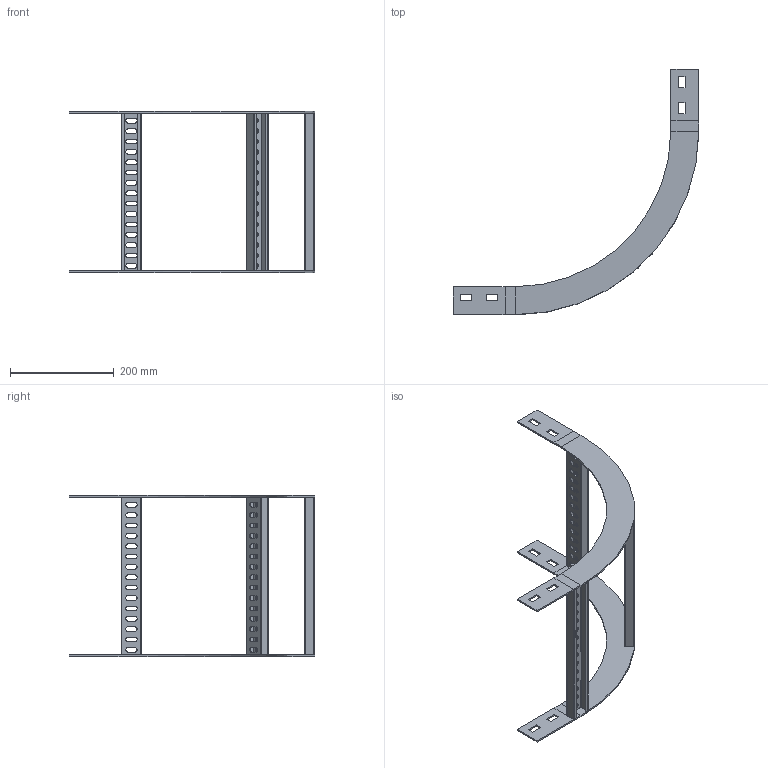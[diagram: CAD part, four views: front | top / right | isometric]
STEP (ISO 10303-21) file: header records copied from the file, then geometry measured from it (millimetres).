
FILE_DESCRIPTION(/* description */ ('','CAx-IF Rec.Pracs.---Representation and Presentation of Product Manufacturing Information (PMI)---4.0---2014-10-13'),/* implementation_level */ '2;1');
FILE_NAME(/* name */ 'Eurostrut_EIR60-300-90-300_Inside Riser for Cable Ladder ECL.step',/* time_stamp */ '2026-09-03T10:03:35+02:00',/* author */ (''),/* organization */ (''),/* preprocessor_version */ 'ST-DEVELOPER v20.1',/* originating_system */ 'Autodesk Revit 2027 27.2.0.39',/* authorisation */ '');
FILE_SCHEMA (('AP242_MANAGED_MODEL_BASED_3D_ENGINEERING_MIM_LF { 1 0 10303 442 2 1 4 }'));
Length unit declared in the file: millimetre
Products named in the file (8): TopLevelAssembly; Sweep; Extrusion; Extrusion_1; Extrusion_2; Extrusion_3; Eurostrut_Cable Ladder_Rung_V2 Vertical_Array EIR_Slotted; Eurostrut_Cable Ladder_Accessory End_54-94-142
Assembly tree (10 placements, depth 2):
  TopLevelAssembly
    Sweep
    Extrusion
    Extrusion_1
    Extrusion_2
    Extrusion_3
    Eurostrut_Cable Ladder_Rung_V2 Vertical_Array EIR_Slotted
    Eurostrut_Cable Ladder_Accessory End_54-94-142  x4
Bounding box: 474 x 474 x 311 mm (x, y, z)
Volume: 346041.4 mm3; surface area: 323936.4 mm2
Topology: 13 solids, 13 shells, 326 faces, 900 edges, 600 vertices
Faces by surface type: plane 220, bspline 90, cylinder 16
Entity records: 12022 total; most frequent: CARTESIAN_POINT 4412, ORIENTED_EDGE 1584, DIRECTION 1428, EDGE_CURVE 792, LINE 580, VECTOR 580, VERTEX_POINT 528, AXIS2_PLACEMENT_3D 424
